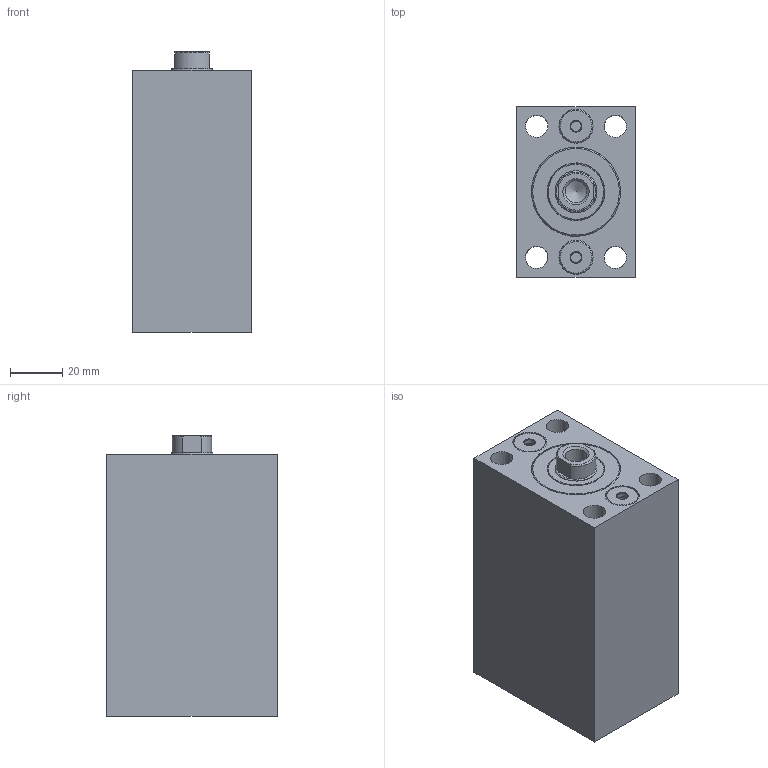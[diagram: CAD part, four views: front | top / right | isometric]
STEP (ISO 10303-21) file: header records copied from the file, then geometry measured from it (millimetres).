
FILE_DESCRIPTION( ( 'STEP AP203' ), '1' );
FILE_NAME( 'C:/Users/SAYKO.ltd/Desktop/SBZ100/07/SBZ100-25/SBZ100.25__FORM_07_STROKE_35__H2_44_POS_0_.stp', ' ', ( ' ' ), ( ' ' ), 'PSStep 15.0.47', 'PARTsolutions', ' ' );
FILE_SCHEMA( ( 'CONFIG_CONTROL_DESIGN' ) );
Length unit declared in the file: millimetre
Products named in the file (5): SBZ100.25  FORM=07 STROKE=35 (H2=44 POS=0); HI_SBZ10025  FORM=07 STROKE=35 H2=44 -C; HI_SBZ10025  FORM=07 STROKE=35-R; HI_SBZ100.25-C; HI_SBZ100.25-S
Assembly tree (4 placements, depth 2):
  SBZ100.25  FORM=07 STROKE=35 (H2=44 POS=0)
    HI_SBZ10025  FORM=07 STROKE=35 H2=44 -C
    HI_SBZ10025  FORM=07 STROKE=35-R
    HI_SBZ100.25-C
    HI_SBZ100.25-S
Bounding box: 45 x 65 x 107 mm (x, y, z)
Volume: 255284 mm3; surface area: 61248.7 mm2
Topology: 4 solids, 4 shells, 74 faces, 136 edges, 87 vertices
Faces by surface type: plane 33, cylinder 28, cone 10, torus 3
Full cylindrical faces by diameter (mm): 4 x4, 8.376 x1, 8.5 x4, 13 x2, 13.6 x4, 16 x4, 22 x1, 24 x2, 25 x2, 34 x2
Entity records: 3855 total; most frequent: CARTESIAN_POINT 2525, ORIENTED_EDGE 188, DIRECTION 178, EDGE_LOOP 140, FACE_OUTER_BOUND 101, EDGE_CURVE 94, VERTEX_POINT 83, AXIS2_PLACEMENT_3D 81
